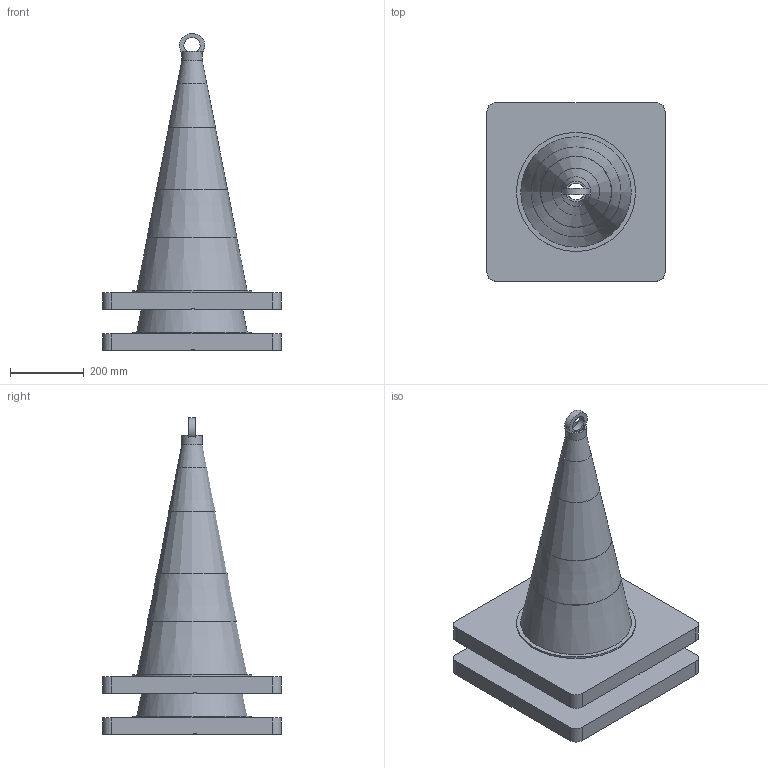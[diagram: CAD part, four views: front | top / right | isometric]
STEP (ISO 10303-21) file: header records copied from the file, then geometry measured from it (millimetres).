
FILE_DESCRIPTION(('FreeCAD Model'),'2;1');
FILE_NAME('Open CASCADE Shape Model','2026-10-04T06:14:37',('FreeCAD'),( 'FreeCAD'),'Open CASCADE STEP processor 7.8','FreeCAD','Unknown');
FILE_SCHEMA(('AUTOMOTIVE_DESIGN { 1 0 10303 214 1 1 1 1 }'));
Length unit declared in the file: millimetre
Products named in the file (1): Open CASCADE STEP translator 7.8 2
Bounding box: 485 x 485 x 861.99 mm (x, y, z)
Volume: 18230354 mm3; surface area: 2932260.7 mm2
Topology: 8 solids, 8 shells, 110 faces, 282 edges, 188 vertices
Faces by surface type: plane 70, cylinder 16, cone 14, extrusion 10
Full cylindrical faces by diameter (mm): 45.8 x2, 56 x2, 292 x2, 324 x2
Entity records: 3604 total; most frequent: CARTESIAN_POINT 777, DIRECTION 598, ORIENTED_EDGE 564, EDGE_CURVE 282, AXIS2_PLACEMENT_3D 211, VERTEX_POINT 188, VECTOR 176, LINE 166
